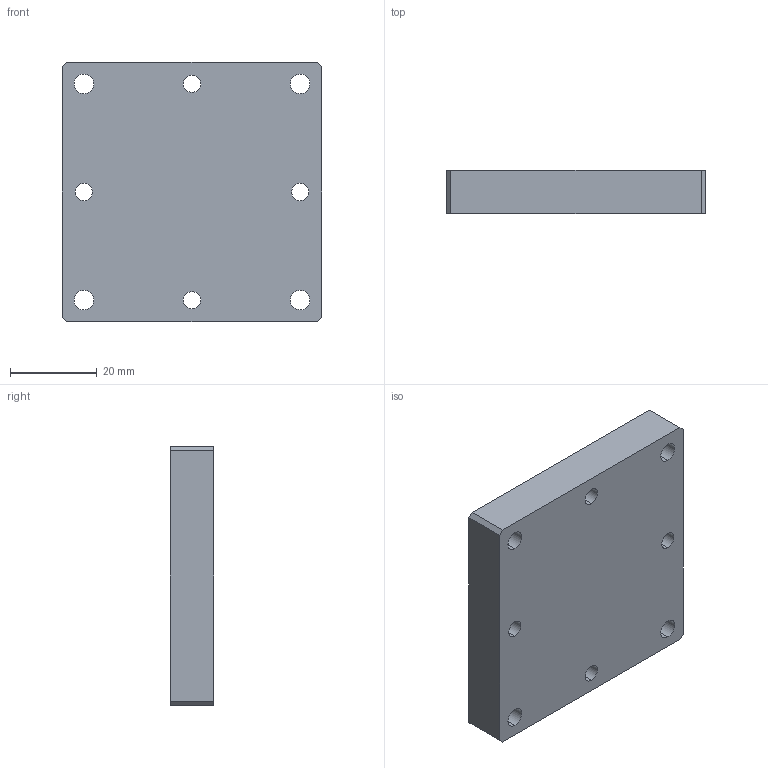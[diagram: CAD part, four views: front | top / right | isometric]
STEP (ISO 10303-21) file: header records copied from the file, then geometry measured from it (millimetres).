
FILE_DESCRIPTION (( 'STEP AP203' ), '1' );
FILE_NAME ('SS-6011-3.STEP', '2020-02-19T07:15:48', ( '' ), ( '' ), 'SwSTEP 2.0', 'SolidWorks 2016', '' );
FILE_SCHEMA (( 'CONFIG_CONTROL_DESIGN' ));
Length unit declared in the file: millimetre
Products named in the file (2): SS-6011-3-1; SS-6011-3
Assembly tree (1 placements, depth 2):
  SS-6011-3
    SS-6011-3-1
Bounding box: 60 x 10 x 60 mm (x, y, z)
Volume: 34332.2 mm3; surface area: 10582.6 mm2
Topology: 1 solids, 1 shells, 38 faces, 96 edges, 64 vertices
Faces by surface type: cylinder 24, plane 14
Entity records: 1396 total; most frequent: DIRECTION 228, CARTESIAN_POINT 202, ORIENTED_EDGE 192, EDGE_CURVE 96, AXIS2_PLACEMENT_3D 90, VERTEX_POINT 64, EDGE_LOOP 58, LINE 48
